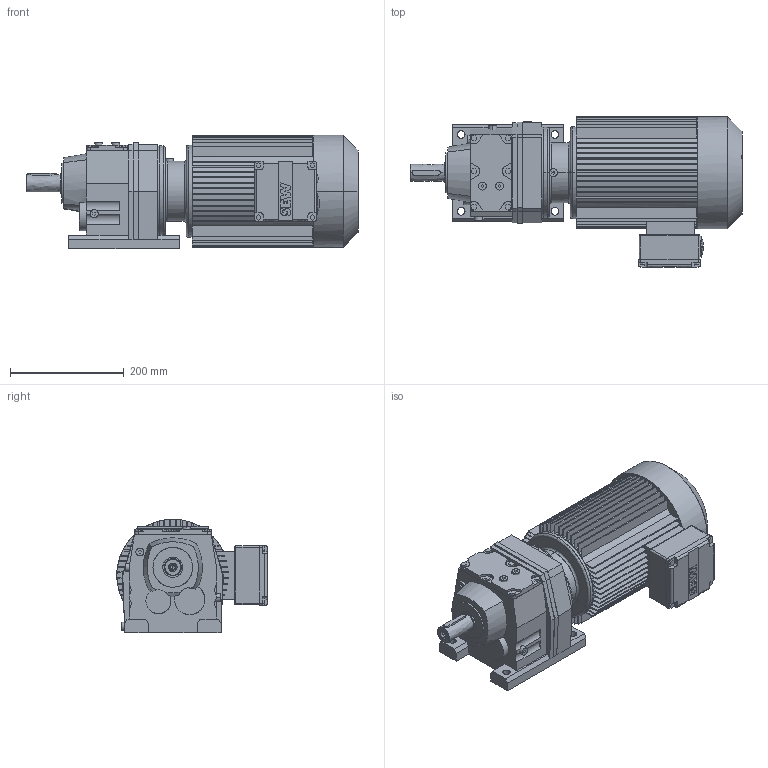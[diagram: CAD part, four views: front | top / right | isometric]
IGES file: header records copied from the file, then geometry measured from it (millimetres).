
Start section: ACIS data in IGES format
Global section: file name: Unknown; native system: ACIS; preprocessor: *IGES writer V5.2; author: unknown author; organization: unknown organization; date: 20070425.101552; units: millimetre
Bounding box: 584 x 264.5 x 199.49 mm (x, y, z)
Surface area: 988590 mm2 (no closed solid volume)
Topology: 0 solids, 0 shells, 761 faces, 4190 edges, 4184 vertices
Faces by surface type: bspline 761
